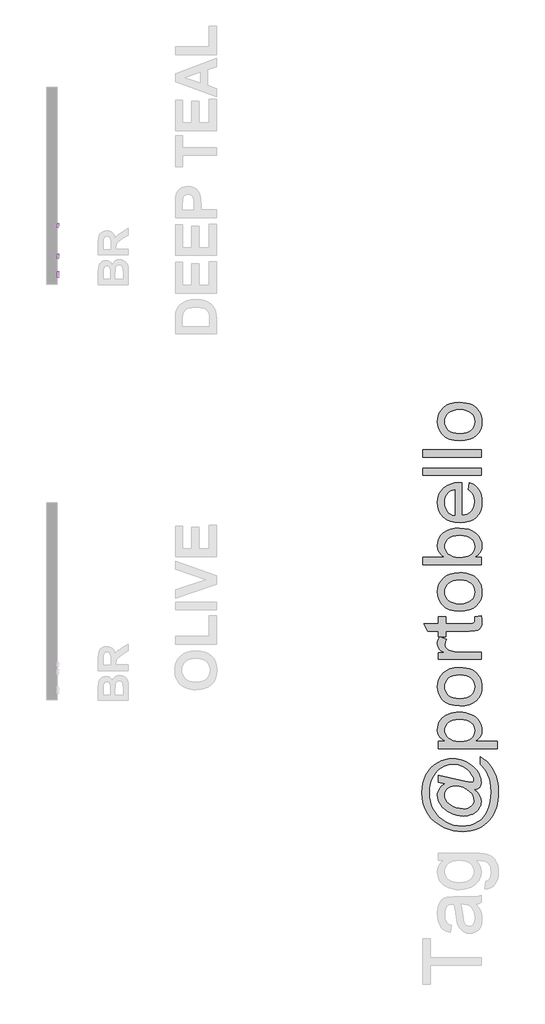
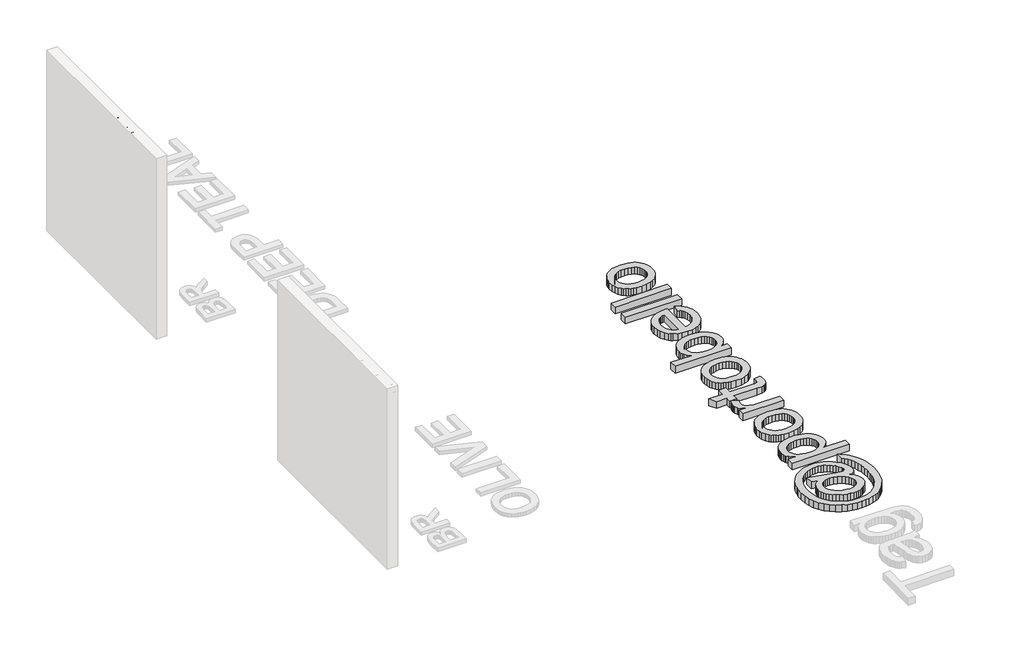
# One storey, part 3 of 10: 4 proxies.
"""IFC4 building model written with IfcOpenShell, lengths in millimetres."""

from ifc_helpers import new_model, si_unit, frame, origin, origin_with_axes, place, context, project, spatial, polyline, outline, extrude, element, save

model = new_model("IFC4")

# Units and contexts
model_context = context("Model", 3, world=origin())
ifc_project = project(units=[si_unit("LENGTHUNIT", "METRE", prefix="MILLI")], contexts=[model_context])

# Site, building, storey
site = spatial("IfcSite", under=ifc_project)
building = spatial("IfcBuilding", under=site)
storey = spatial("IfcBuildingStorey", under=building, Name="PORTOBELLO - SHOWROOM", Elevation=0.0)

# Proxies
placement = place(None, origin())
element("IfcBuildingElementProxy", 1, Name="10mm Arial", ObjectType="10mm Arial", at=placement, inside=storey, context=model_context, shape_type="SweptSolid", body=[
    extrude(outline(polyline([(-1934.9777985, 2518.4745677), (-1934.9777985, 2618.9308778), (-1900.3233145, 2618.9308778), (-1882.3951986, 2617.4838753), (-1867.6308679, 2610.2979137), (-1855.7360167, 2593.1300872), (-1851.7874166, 2569.242283), (-1854.4606925, 2548.9719851), (-1861.327823, 2534.3425444), (-1870.5003475, 2525.2313336), (-1882.5055632, 2520.1913503), (-1898.6555828, 2518.4745677), (-1934.9777985, 2518.4745677)]), holes=[polyline([(-1922.4207597, 2531.0316064), (-1900.2006872, 2531.0316064), (-1884.0384049, 2532.8464909), (-1874.7187277, 2537.9723134), (-1867.0790449, 2550.443513), (-1864.3444554, 2569.4384867), (-1865.684159, 2583.1236969), (-1869.7032698, 2593.2281891), (-1882.7385552, 2604.3627508), (-1900.5440437, 2606.373839), (-1922.4207597, 2606.373839), (-1922.4207597, 2531.0316064)])]), frame((-7116.0080774, 0.0, 0.0), z_axis=(1.0, 0.0, 0.0), x_axis=(0.0, 1.0, 0.0)), (0.0, 0.0, 1.0), 20.0),
    extrude(outline(polyline([(-1784.4404861, 2540.4493855), (-1772.128702, 2538.8797557), (-1776.5647457, 2529.602998), (-1783.6434084, 2522.6684224), (-1793.2052746, 2518.345809), (-1805.0909287, 2516.9049378), (-1819.8246026, 2519.391207), (-1831.1614994, 2526.8500144), (-1838.3903806, 2538.7969822), (-1840.8000077, 2554.7477324), (-1838.3658552, 2571.2349771), (-1831.0633976, 2583.5651553), (-1819.8797849, 2591.253889), (-1805.8021672, 2593.8168003), (-1792.1629423, 2591.2600204), (-1781.2644382, 2583.5896808), (-1774.1183304, 2571.2840281), (-1771.7362945, 2554.8213088), (-1771.8098709, 2551.4367944), (-1828.2429689, 2551.4367944), (-1826.0693995, 2542.0374095), (-1821.0202191, 2535.1273593), (-1813.7330899, 2530.8783223), (-1804.8456741, 2529.4619766), (-1792.53389, 2532.0862015), (-1784.4404861, 2540.4493855)]), holes=[polyline([(-1828.2429689, 2563.9938332), (-1784.2933333, 2563.9938332), (-1789.3210539, 2575.3736496), (-1796.6419056, 2579.7882335), (-1805.8512182, 2581.2597615), (-1821.3145247, 2576.5631347), (-1826.1797641, 2571.0724959), (-1828.2429689, 2563.9938332)])]), frame((-7116.0080774, 0.0, 0.0), z_axis=(1.0, 0.0, 0.0), x_axis=(0.0, 1.0, 0.0)), (0.0, 0.0, 1.0), 20.0),
    extrude(outline(polyline([(-1707.5286236, 2540.4493855), (-1695.2168395, 2538.8797557), (-1699.6528832, 2529.602998), (-1706.7315459, 2522.6684224), (-1716.2934121, 2518.345809), (-1728.1790663, 2516.9049378), (-1742.9127402, 2519.391207), (-1754.249637, 2526.8500144), (-1761.4785182, 2538.7969822), (-1763.8881453, 2554.7477324), (-1761.4539927, 2571.2349771), (-1754.1515351, 2583.5651553), (-1742.9679225, 2591.253889), (-1728.8903048, 2593.8168003), (-1715.2510798, 2591.2600204), (-1704.3525757, 2583.5896808), (-1697.206468, 2571.2840281), (-1694.824432, 2554.8213088), (-1694.8980084, 2551.4367944), (-1751.3311065, 2551.4367944), (-1749.157537, 2542.0374095), (-1744.1083567, 2535.1273593), (-1736.8212275, 2530.8783223), (-1727.9338116, 2529.4619766), (-1715.6220275, 2532.0862015), (-1707.5286236, 2540.4493855)]), holes=[polyline([(-1751.3311065, 2563.9938332), (-1707.3814708, 2563.9938332), (-1712.4091914, 2575.3736496), (-1719.7300431, 2579.7882335), (-1728.9393557, 2581.2597615), (-1744.4026622, 2576.5631347), (-1749.2679016, 2571.0724959), (-1751.3311065, 2563.9938332)])]), frame((-7116.0080774, 0.0, 0.0), z_axis=(1.0, 0.0, 0.0), x_axis=(0.0, 1.0, 0.0)), (0.0, 0.0, 1.0), 20.0),
    extrude(outline(polyline([(-1682.2673933, 2490.2212304), (-1682.2673933, 2592.2471704), (-1669.7103545, 2592.2471704), (-1669.7103545, 2579.9353863), (-1661.0283394, 2590.3464468), (-1649.3051665, 2593.8168003), (-1633.3881388, 2588.9607579), (-1622.9893411, 2575.2755477), (-1619.4821994, 2555.9249548), (-1623.4430622, 2535.5810804), (-1634.945506, 2521.724192), (-1650.8257454, 2516.9049378), (-1661.7518407, 2520.1300366), (-1669.7103545, 2528.2847542), (-1669.7103545, 2490.2212304), (-1682.2673933, 2490.2212304)]), holes=[polyline([(-1669.7103545, 2554.7722579), (-1668.3522568, 2543.5150688), (-1664.2779637, 2535.6423941), (-1658.2661588, 2531.007081), (-1651.0955255, 2529.4619766), (-1643.8083964, 2531.0622633), (-1637.6433072, 2535.8631233), (-1633.4402555, 2544.0239722), (-1632.0392382, 2555.7042256), (-1633.4065329, 2566.900101), (-1637.5084172, 2574.8831403), (-1643.5110251, 2579.6656062), (-1650.5804907, 2581.2597615), (-1657.6775476, 2579.5644386), (-1663.9100817, 2574.4784701), (-1668.2602863, 2566.1612713), (-1669.7103545, 2554.7722579)])]), frame((-7116.0080774, 0.0, 0.0), z_axis=(1.0, 0.0, 0.0), x_axis=(0.0, 1.0, 0.0)), (0.0, 0.0, 1.0), 20.0),
    extrude(outline(polyline([(-1539.4310773, 2518.4745677), (-1539.4310773, 2606.373839), (-1572.393304, 2606.373839), (-1572.393304, 2618.9308778), (-1493.9118117, 2618.9308778), (-1493.9118117, 2606.373839), (-1526.8740385, 2606.373839), (-1526.8740385, 2518.4745677), (-1539.4310773, 2518.4745677)])), frame((-7116.0080774, 0.0, 0.0), z_axis=(1.0, 0.0, 0.0), x_axis=(0.0, 1.0, 0.0)), (0.0, 0.0, 1.0), 20.0),
    extrude(outline(polyline([(-1429.7041408, 2540.4493855), (-1417.3923567, 2538.8797557), (-1421.8284005, 2529.602998), (-1428.9070632, 2522.6684224), (-1438.4689294, 2518.345809), (-1450.3545835, 2516.9049378), (-1465.0882574, 2519.391207), (-1476.4251542, 2526.8500144), (-1483.6540354, 2538.7969822), (-1486.0636625, 2554.7477324), (-1483.62951, 2571.2349771), (-1476.3270524, 2583.5651553), (-1465.1434397, 2591.253889), (-1451.065822, 2593.8168003), (-1437.4265971, 2591.2600204), (-1426.5280929, 2583.5896808), (-1419.3819852, 2571.2840281), (-1416.9999493, 2554.8213088), (-1417.0735257, 2551.4367944), (-1473.5066237, 2551.4367944), (-1471.3330543, 2542.0374095), (-1466.2838739, 2535.1273593), (-1458.9967447, 2530.8783223), (-1450.1093288, 2529.4619766), (-1437.7975447, 2532.0862015), (-1429.7041408, 2540.4493855)]), holes=[polyline([(-1473.5066237, 2563.9938332), (-1429.556988, 2563.9938332), (-1434.5847086, 2575.3736496), (-1441.9055603, 2579.7882335), (-1451.114873, 2581.2597615), (-1466.5781795, 2576.5631347), (-1471.4434189, 2571.0724959), (-1473.5066237, 2563.9938332)])]), frame((-7116.0080774, 0.0, 0.0), z_axis=(1.0, 0.0, 0.0), x_axis=(0.0, 1.0, 0.0)), (0.0, 0.0, 1.0), 20.0),
    extrude(outline(polyline([(-1357.3540151, 2527.8923467), (-1369.5309092, 2519.3820099), (-1382.9831275, 2516.9049378), (-1393.4769614, 2518.3948599), (-1401.2178117, 2522.8646261), (-1405.9910806, 2529.6520489), (-1407.5821702, 2538.0949407), (-1405.1786745, 2548.0277546), (-1398.8633669, 2555.2382417), (-1390.0709872, 2559.3585201), (-1379.2062056, 2561.246981), (-1357.4275915, 2565.563463), (-1357.3540151, 2568.3593662), (-1360.8121059, 2577.6299925), (-1374.6935198, 2581.2597615), (-1387.3977114, 2578.8440031), (-1393.4555016, 2570.2723526), (-1406.0125404, 2571.8419824), (-1400.5801496, 2584.1047156), (-1389.6417916, 2591.2906772), (-1373.0748391, 2593.8168003), (-1357.8567872, 2591.5849828), (-1349.2606112, 2585.9809138), (-1345.410113, 2577.4583142), (-1344.7969764, 2566.4709053), (-1344.7969764, 2550.8481832), (-1344.1593142, 2529.0327809), (-1341.6577167, 2518.4745677), (-1354.2147554, 2518.4745677), (-1357.3540151, 2527.8923467)]), holes=[polyline([(-1357.3540151, 2553.0064243), (-1377.6120503, 2549.1559261), (-1388.4155182, 2547.1203124), (-1393.3083488, 2543.8093744), (-1395.0251314, 2538.9778575), (-1391.2849978, 2532.1843033), (-1380.3098516, 2529.4619766), (-1367.6056601, 2532.4663462), (-1359.4141543, 2539.738147), (-1357.4275915, 2549.4502317), (-1357.3540151, 2553.0064243)])]), frame((-7116.0080774, 0.0, 0.0), z_axis=(1.0, 0.0, 0.0), x_axis=(0.0, 1.0, 0.0)), (0.0, 0.0, 1.0), 20.0),
    extrude(outline(polyline([(-7096.0080774, -1314.9740093), (-7096.0080774, -1327.531048), (-7116.0080774, -1327.531048), (-7116.0080774, -1314.9740093), (-7096.0080774, -1314.9740093)])), frame((0.0, 0.0, 2518.4745677), z_axis=(0.0, 0.0, 1.0), x_axis=(1.0, 0.0, 0.0)), (0.0, 0.0, 1.0), 100.4563101),
])
element("IfcBuildingElementProxy", 2, Name="10mm Arial", ObjectType="10mm Arial", at=placement, inside=storey, context=model_context, shape_type="SweptSolid", body=[
    extrude(outline(polyline([(-1892.5977926, 2383.4745677), (-1905.1548314, 2383.4745677), (-1905.1548314, 2461.7598562), (-1917.0496826, 2453.2863076), (-1930.2689089, 2446.9464746), (-1930.2689089, 2458.8168003), (-1911.8625465, 2470.5644987), (-1900.6911965, 2483.9308778), (-1892.5977926, 2483.9308778), (-1892.5977926, 2383.4745677)])), frame((-7116.0080774, 0.0, 0.0), z_axis=(1.0, 0.0, 0.0), x_axis=(0.0, 1.0, 0.0)), (0.0, 0.0, 1.0), 20.0),
    extrude(outline(polyline([(-1815.6859302, 2383.4745677), (-1828.2429689, 2383.4745677), (-1828.2429689, 2461.7598562), (-1840.1378201, 2453.2863076), (-1853.3570465, 2446.9464746), (-1853.3570465, 2458.8168003), (-1834.950684, 2470.5644987), (-1823.7793341, 2483.9308778), (-1815.6859302, 2483.9308778), (-1815.6859302, 2383.4745677)])), frame((-7116.0080774, 0.0, 0.0), z_axis=(1.0, 0.0, 0.0), x_axis=(0.0, 1.0, 0.0)), (0.0, 0.0, 1.0), 20.0),
    extrude(outline(polyline([(-1779.5844437, 2383.4745677), (-1779.5844437, 2396.0316064), (-1767.027405, 2396.0316064), (-1767.027405, 2383.4745677), (-1769.2837479, 2370.635486), (-1776.445184, 2363.0693797), (-1779.5844437, 2367.7782692), (-1774.973656, 2373.1983973), (-1773.3304498, 2383.4745677), (-1779.5844437, 2383.4745677)])), frame((-7116.0080774, 0.0, 0.0), z_axis=(1.0, 0.0, 0.0), x_axis=(0.0, 1.0, 0.0)), (0.0, 0.0, 1.0), 20.0),
    extrude(outline(polyline([(-1746.622217, 2410.158275), (-1734.0651782, 2411.7279049), (-1727.7376079, 2398.7907214), (-1714.6164834, 2394.4619766), (-1705.6156372, 2395.9672271), (-1698.871134, 2400.4829786), (-1694.6588851, 2407.4880649), (-1693.2548022, 2416.4613199), (-1698.5155147, 2431.3728034), (-1705.1220622, 2435.4746877), (-1714.4202796, 2436.8419824), (-1725.4444768, 2434.6592159), (-1732.4955483, 2428.9938332), (-1745.0525871, 2430.563463), (-1734.0651782, 2482.361248), (-1685.406653, 2482.361248), (-1685.406653, 2469.8042092), (-1723.9116351, 2469.8042092), (-1729.3072377, 2442.1394832), (-1720.3370484, 2447.5841367), (-1710.9376634, 2449.3990212), (-1699.2022278, 2447.1488097), (-1689.4533549, 2440.3981751), (-1682.8866613, 2430.1097419), (-1680.6977634, 2417.2461348), (-1682.6659321, 2404.6890961), (-1688.5704381, 2393.9469418), (-1699.8766781, 2384.9154388), (-1714.6655343, 2381.9049378), (-1726.9987782, 2383.839384), (-1736.8242931, 2389.6427224), (-1743.5595993, 2398.6405029), (-1746.622217, 2410.158275)])), frame((-7116.0080774, 0.0, 0.0), z_axis=(1.0, 0.0, 0.0), x_axis=(0.0, 1.0, 0.0)), (0.0, 0.0, 1.0), 20.0),
    extrude(outline(polyline([(-1674.419244, 2383.4745677), (-1647.5883839, 2420.5815982), (-1672.8496142, 2457.2471704), (-1657.7909779, 2457.2471704), (-1645.6018211, 2439.5643092), (-1639.8873874, 2431.2501761), (-1634.9332432, 2438.0682557), (-1621.0518293, 2457.2471704), (-1605.944142, 2457.2471704), (-1632.4806966, 2420.5570728), (-1606.9251607, 2383.4745677), (-1622.0083225, 2383.4745677), (-1637.4103153, 2405.792742), (-1640.2062185, 2409.8884949), (-1659.3115568, 2383.4745677), (-1674.419244, 2383.4745677)])), frame((-7116.0080774, 0.0, 0.0), z_axis=(1.0, 0.0, 0.0), x_axis=(0.0, 1.0, 0.0)), (0.0, 0.0, 1.0), 20.0),
    extrude(outline(polyline([(-1551.988116, 2383.4745677), (-1564.5451548, 2383.4745677), (-1564.5451548, 2461.7598562), (-1576.440006, 2453.2863076), (-1589.6592323, 2446.9464746), (-1589.6592323, 2458.8168003), (-1571.2528699, 2470.5644987), (-1560.0815199, 2483.9308778), (-1551.988116, 2483.9308778), (-1551.988116, 2383.4745677)])), frame((-7116.0080774, 0.0, 0.0), z_axis=(1.0, 0.0, 0.0), x_axis=(0.0, 1.0, 0.0)), (0.0, 0.0, 1.0), 20.0),
    extrude(outline(polyline([(-1475.0762536, 2383.4745677), (-1487.6332923, 2383.4745677), (-1487.6332923, 2461.7598562), (-1499.5281435, 2453.2863076), (-1512.7473699, 2446.9464746), (-1512.7473699, 2458.8168003), (-1494.3410074, 2470.5644987), (-1483.1696575, 2483.9308778), (-1475.0762536, 2483.9308778), (-1475.0762536, 2383.4745677)])), frame((-7116.0080774, 0.0, 0.0), z_axis=(1.0, 0.0, 0.0), x_axis=(0.0, 1.0, 0.0)), (0.0, 0.0, 1.0), 20.0),
    extrude(outline(polyline([(-1438.9747671, 2383.4745677), (-1438.9747671, 2396.0316064), (-1426.4177284, 2396.0316064), (-1426.4177284, 2383.4745677), (-1428.6740713, 2370.635486), (-1435.8355074, 2363.0693797), (-1438.9747671, 2367.7782692), (-1434.3639794, 2373.1983973), (-1432.7207732, 2383.4745677), (-1438.9747671, 2383.4745677)])), frame((-7116.0080774, 0.0, 0.0), z_axis=(1.0, 0.0, 0.0), x_axis=(0.0, 1.0, 0.0)), (0.0, 0.0, 1.0), 20.0),
    extrude(outline(polyline([(-1406.0125404, 2410.158275), (-1393.4555016, 2411.7279049), (-1387.1279313, 2398.7907214), (-1374.0068068, 2394.4619766), (-1365.0059606, 2395.9672271), (-1358.2614574, 2400.4829786), (-1354.0492085, 2407.4880649), (-1352.6451256, 2416.4613199), (-1357.9058381, 2431.3728034), (-1364.5123856, 2435.4746877), (-1373.810603, 2436.8419824), (-1384.8348002, 2434.6592159), (-1391.8858717, 2428.9938332), (-1404.4429105, 2430.563463), (-1393.4555016, 2482.361248), (-1344.7969764, 2482.361248), (-1344.7969764, 2469.8042092), (-1383.3019585, 2469.8042092), (-1388.6975611, 2442.1394832), (-1379.7273718, 2447.5841367), (-1370.3279868, 2449.3990212), (-1358.5925512, 2447.1488097), (-1348.8436783, 2440.3981751), (-1342.2769847, 2430.1097419), (-1340.0880868, 2417.2461348), (-1342.0562555, 2404.6890961), (-1347.9607615, 2393.9469418), (-1359.2670015, 2384.9154388), (-1374.0558577, 2381.9049378), (-1386.3891016, 2383.839384), (-1396.2146165, 2389.6427224), (-1402.9499227, 2398.6405029), (-1406.0125404, 2410.158275)])), frame((-7116.0080774, 0.0, 0.0), z_axis=(1.0, 0.0, 0.0), x_axis=(0.0, 1.0, 0.0)), (0.0, 0.0, 1.0), 20.0),
])
element("IfcBuildingElementProxy", 3, Name="10mm Arial Narrow", ObjectType="10mm Arial Narrow", at=placement, inside=storey, context=model_context, shape_type="SweptSolid", body=[
    extrude(outline(polyline([(-1253.0722036, 2518.4745677), (-1253.0722036, 2615.7916181), (-1222.8323036, 2615.7916181), (-1207.0869542, 2613.9767336), (-1196.0014434, 2604.8164719), (-1191.8566396, 2588.3721467), (-1193.5826193, 2576.7041561), (-1198.7605584, 2567.402873), (-1208.1752718, 2561.314426), (-1222.6115744, 2559.2849437), (-1243.6544246, 2559.2849437), (-1243.6544246, 2518.4745677), (-1253.0722036, 2518.4745677)]), holes=[polyline([(-1243.6544246, 2570.2723526), (-1221.4588775, 2570.2723526), (-1206.130461, 2574.6501483), (-1201.2744187, 2587.857112), (-1203.6656517, 2597.6795612), (-1209.441399, 2603.2836303), (-1221.6796067, 2604.8042092), (-1243.6544246, 2604.8042092), (-1243.6544246, 2570.2723526)])]), frame((-7116.0080774, 0.0, 0.0), z_axis=(1.0, 0.0, 0.0), x_axis=(0.0, 1.0, 0.0)), (0.0, 0.0, 1.0), 20.0),
    extrude(outline(polyline([(-1184.0084904, 2553.7912392), (-1182.1200295, 2569.8216971), (-1176.4546468, 2581.3701261), (-1167.895259, 2588.350687), (-1157.324783, 2590.6775406), (-1146.8769344, 2588.350687), (-1138.2930211, 2581.3701261), (-1132.554062, 2570.0056381), (-1130.6410756, 2554.5270032), (-1132.5203395, 2537.9447223), (-1138.1581311, 2526.2123523), (-1146.7083218, 2519.2317914), (-1157.324783, 2516.9049378), (-1167.8186169, 2519.2379228), (-1176.3933331, 2526.2368778), (-1182.1047011, 2537.7914381), (-1184.0084904, 2553.7912392)]), holes=[polyline([(-1174.5907113, 2553.8157647), (-1173.3307155, 2541.6879216), (-1169.550728, 2533.1162711), (-1163.906805, 2528.0211054), (-1157.0550029, 2526.3227169), (-1150.5618857, 2528.0364339), (-1145.0620498, 2533.1775847), (-1141.3096535, 2541.7645636), (-1140.0588547, 2553.8157647), (-1141.3188505, 2565.9068196), (-1145.098838, 2574.4662073), (-1150.742761, 2579.561373), (-1157.5945631, 2581.2597615), (-1164.1336656, 2579.5521759), (-1169.6243044, 2574.4294191), (-1173.3491096, 2565.8608343), (-1174.5907113, 2553.8157647)])]), frame((-7116.0080774, 0.0, 0.0), z_axis=(1.0, 0.0, 0.0), x_axis=(0.0, 1.0, 0.0)), (0.0, 0.0, 1.0), 20.0),
    extrude(outline(polyline([(-1061.5773624, 2526.3227169), (-1060.0077326, 2516.9049378), (-1067.1201178, 2516.9049378), (-1075.1154198, 2518.9528143), (-1079.2847491, 2524.5568833), (-1080.4129206, 2538.7080774), (-1080.4129206, 2579.6901317), (-1088.2610698, 2579.6901317), (-1088.2610698, 2582.8293914), (-1089.8306996, 2578.1205018), (-1097.1392886, 2579.6901317), (-1103.0131378, 2577.4460515), (-1106.7532714, 2571.1797948), (-1108.6662578, 2556.2928368), (-1108.6662578, 2518.4745677), (-1118.0840369, 2518.4745677), (-1118.0840369, 2589.1079107), (-1108.6662578, 2589.1079107), (-1108.6662578, 2579.7391826), (-1102.6329931, 2588.5192995), (-1096.4525756, 2590.6775406), (-1088.2610698, 2589.1079107), (-1080.4129206, 2589.1079107), (-1080.4129206, 2604.8042092), (-1070.9951415, 2612.6523584), (-1070.9951415, 2589.1079107), (-1061.5773624, 2589.1079107), (-1061.5773624, 2579.6901317), (-1070.9951415, 2579.6901317), (-1070.9951415, 2536.5498364), (-1070.1612756, 2528.8243145), (-1065.6976408, 2526.3227169), (-1061.5773624, 2526.3227169)])), frame((-7116.0080774, 0.0, 0.0), z_axis=(1.0, 0.0, 0.0), x_axis=(0.0, 1.0, 0.0)), (0.0, 0.0, 1.0), 20.0),
    extrude(outline(polyline([(-1055.298843, 2553.7912392), (-1053.4103821, 2569.8216971), (-1047.7449994, 2581.3701261), (-1039.1856116, 2588.350687), (-1028.6151356, 2590.6775406), (-1018.167287, 2588.350687), (-1009.5833738, 2581.3701261), (-1003.8444146, 2570.0056381), (-1001.9314283, 2554.5270032), (-1003.8106921, 2537.9447223), (-1009.4484837, 2526.2123523), (-1017.9986744, 2519.2317914), (-1028.6151356, 2516.9049378), (-1039.1089696, 2519.2379228), (-1047.6836857, 2526.2368778), (-1053.3950537, 2537.7914381), (-1055.298843, 2553.7912392)]), holes=[polyline([(-1045.8810639, 2553.8157647), (-1044.6210681, 2541.6879216), (-1040.8410806, 2533.1162711), (-1035.1971577, 2528.0211054), (-1028.3453555, 2526.3227169), (-1021.8522383, 2528.0364339), (-1016.3524025, 2533.1775847), (-1012.6000061, 2541.7645636), (-1011.3492073, 2553.8157647), (-1012.6092032, 2565.9068196), (-1016.3891907, 2574.4662073), (-1022.0331136, 2579.561373), (-1028.8849158, 2581.2597615), (-1035.4240182, 2579.5521759), (-1040.914657, 2574.4294191), (-1044.6394622, 2565.8608343), (-1045.8810639, 2553.8157647)])]), frame((-7116.0080774, 0.0, 0.0), z_axis=(1.0, 0.0, 0.0), x_axis=(0.0, 1.0, 0.0)), (0.0, 0.0, 1.0), 20.0),
    extrude(outline(polyline([(-979.9566104, 2518.4745677), (-989.3743895, 2518.4745677), (-989.3743895, 2615.7916181), (-979.9566104, 2615.7916181), (-979.9566104, 2581.5785926), (-972.807437, 2588.4211977), (-963.9169554, 2590.6775406), (-951.4702813, 2586.6185759), (-942.5062233, 2574.3190545), (-939.1462344, 2554.3307995), (-941.0132355, 2538.4321659), (-946.6142389, 2526.641548), (-954.7045771, 2519.3390904), (-964.0395828, 2516.9049378), (-973.0649544, 2519.4310609), (-979.9566104, 2526.9358536), (-979.9566104, 2518.4745677)]), holes=[polyline([(-979.9566104, 2554.3307995), (-977.9455222, 2537.6657451), (-972.255614, 2529.2289847), (-964.0886337, 2526.3227169), (-958.3466089, 2528.0517623), (-953.2851658, 2533.2388984), (-948.5640135, 2553.938392), (-953.1134875, 2574.6501483), (-958.181062, 2579.6073582), (-964.2848374, 2581.2597615), (-970.0605847, 2579.5307161), (-975.1741445, 2574.34358), (-979.9566104, 2554.3307995)])]), frame((-7116.0080774, 0.0, 0.0), z_axis=(1.0, 0.0, 0.0), x_axis=(0.0, 1.0, 0.0)), (0.0, 0.0, 1.0), 20.0),
    extrude(outline(polyline([(-888.9180793, 2540.4493855), (-879.5003003, 2538.8797557), (-888.6973501, 2522.4476932), (-905.1784635, 2516.9049378), (-916.3804703, 2519.2379228), (-925.2157695, 2526.2368778), (-930.9547287, 2537.6442853), (-932.867715, 2553.202628), (-930.9455316, 2569.3066623), (-925.1789813, 2581.0758205), (-916.4693751, 2588.2771106), (-905.7180238, 2590.6775406), (-895.3958681, 2588.359884), (-886.9437793, 2581.4069143), (-881.3059877, 2570.0638861), (-879.4267239, 2554.5760541), (-879.5003003, 2551.4367944), (-923.449936, 2551.4367944), (-917.6496632, 2532.6502872), (-911.9199011, 2527.9046095), (-905.0558362, 2526.3227169), (-895.2211242, 2529.854384), (-888.9180793, 2540.4493855)]), holes=[polyline([(-922.8122738, 2560.8545735), (-888.9180793, 2560.8545735), (-893.0383577, 2574.6378856), (-898.6669522, 2579.6042925), (-905.6444474, 2581.2597615), (-917.4411967, 2575.7415316), (-922.8122738, 2560.8545735)])]), frame((-7116.0080774, 0.0, 0.0), z_axis=(1.0, 0.0, 0.0), x_axis=(0.0, 1.0, 0.0)), (0.0, 0.0, 1.0), 20.0),
    extrude(outline(polyline([(-7096.0080774, -857.5254824), (-7096.0080774, -866.9432615), (-7116.0080774, -866.9432615), (-7116.0080774, -857.5254824), (-7096.0080774, -857.5254824)])), frame((0.0, 0.0, 2518.4745677), z_axis=(0.0, 0.0, 1.0), x_axis=(1.0, 0.0, 0.0)), (0.0, 0.0, 1.0), 97.3170505),
    extrude(outline(polyline([(-7096.0080774, -832.4114049), (-7096.0080774, -841.829184), (-7116.0080774, -841.829184), (-7116.0080774, -832.4114049), (-7096.0080774, -832.4114049)])), frame((0.0, 0.0, 2518.4745677), z_axis=(0.0, 0.0, 1.0), x_axis=(1.0, 0.0, 0.0)), (0.0, 0.0, 1.0), 97.3170505),
    extrude(outline(polyline([(-821.423996, 2553.7912392), (-819.535535, 2569.8216971), (-813.8701523, 2581.3701261), (-805.3107646, 2588.350687), (-794.7402886, 2590.6775406), (-784.2924399, 2588.350687), (-775.7085267, 2581.3701261), (-769.9695676, 2570.0056381), (-768.0565812, 2554.5270032), (-769.935845, 2537.9447223), (-775.5736366, 2526.2123523), (-784.1238273, 2519.2317914), (-794.7402886, 2516.9049378), (-805.2341225, 2519.2379228), (-813.8088387, 2526.2368778), (-819.5202066, 2537.7914381), (-821.423996, 2553.7912392)]), holes=[polyline([(-812.0062169, 2553.8157647), (-810.746221, 2541.6879216), (-806.9662335, 2533.1162711), (-801.3223106, 2528.0211054), (-794.4705084, 2526.3227169), (-787.9773912, 2528.0364339), (-782.4775554, 2533.1775847), (-778.725159, 2541.7645636), (-777.4743603, 2553.8157647), (-778.7343561, 2565.9068196), (-782.5143436, 2574.4662073), (-788.1582665, 2579.561373), (-795.0100687, 2581.2597615), (-801.5491712, 2579.5521759), (-807.0398099, 2574.4294191), (-810.7646151, 2565.8608343), (-812.0062169, 2553.8157647)])]), frame((-7116.0080774, 0.0, 0.0), z_axis=(1.0, 0.0, 0.0), x_axis=(0.0, 1.0, 0.0)), (0.0, 0.0, 1.0), 20.0),
])
element("IfcBuildingElementProxy", 4, Name="80mm Arial", ObjectType="80mm Arial", at=placement, inside=storey, context=model_context, shape_type="SweptSolid", body=[
    extrude(outline(polyline([(-1393.5264717, -8955.7052888), (-1356.2258943, -8992.9570753), (-1327.0733829, -9034.4536627), (-1308.2645241, -9078.1458368), (-1301.9949044, -9121.9843833), (-1303.7879669, -9145.9162776), (-1309.1671541, -9169.5066362), (-1318.1324662, -9192.7554591), (-1330.6839031, -9215.6627463), (-1346.9556396, -9237.3319667), (-1367.0818505, -9256.8665889), (-1391.0625356, -9274.2666129), (-1418.897695, -9289.5320389), (-1449.3919539, -9301.9553999), (-1481.3499371, -9310.8292293), (-1514.7716448, -9316.1535268), (-1549.6570769, -9317.9282927), (-1593.4956233, -9315.1777106), (-1637.3829606, -9306.9259641), (-1681.3190887, -9293.1730534), (-1725.3040076, -9273.9189784), (-1766.5688387, -9250.5725738), (-1802.3447031, -9224.5426745), (-1832.631601, -9195.8292804), (-1857.4295322, -9164.4323915), (-1876.7262992, -9131.9316105), (-1890.5097042, -9099.9065399), (-1898.7797472, -9068.3571797), (-1901.5364282, -9037.28353), (-1899.9690233, -9014.120091), (-1895.2668086, -8991.4689555), (-1876.4579497, -8947.7035953), (-1862.2781194, -8927.0772786), (-1844.8171068, -8907.9390818), (-1800.0515349, -8874.1270476), (-1889.0459798, -8855.7817015), (-1889.0459798, -8755.8581142), (-1522.5293842, -8838.6073349), (-1438.0236942, -8855.7817015), (-1424.2402892, -8852.9762297), (-1412.5548892, -8844.5598142), (-1404.5775911, -8832.1913429), (-1401.9184917, -8817.5297032), (-1403.8945197, -8801.8556542), (-1409.8226036, -8783.9128323), (-1433.5349393, -8741.22087), (-1455.8994287, -8711.6231423), (-1481.8134498, -8685.2822016), (-1511.2770027, -8662.1980477), (-1544.2900873, -8642.3706806), (-1579.3523861, -8626.4465786), (-1614.9635815, -8615.0722201), (-1651.1236736, -8608.247605), (-1687.8326624, -8605.9727332), (-1730.2562753, -8608.9001821), (-1771.2649545, -8617.6825286), (-1810.8587002, -8632.3197729), (-1849.0375122, -8652.8119148), (-1884.63651, -8679.1162624), (-1916.4908127, -8711.1901239), (-1944.6004205, -8749.0334991), (-1968.9653333, -8792.646388), (-1988.6463279, -8840.3577054), (-2002.7041813, -8890.4963657), (-2011.1388932, -8943.0623691), (-2013.9504639, -8998.0557154), (-2010.3826356, -9060.7885047), (-1999.6791508, -9120.7646129), (-1981.8400094, -9177.9840401), (-1956.8652114, -9232.4467864), (-1925.2304673, -9282.5427548), (-1887.4114875, -9326.6618484), (-1843.408272, -9364.8040674), (-1793.2208209, -9396.9694116), (-1738.989831, -9422.499205), (-1682.8559994, -9440.7347718), (-1624.819326, -9451.6761119), (-1564.8798109, -9455.3232252), (-1503.1899253, -9451.712705), (-1445.9522015, -9440.8811443), (-1393.1666395, -9422.828543), (-1344.8332392, -9397.5549013), (-1301.7387527, -9365.4444468), (-1264.6699316, -9326.8814071), (-1233.6267762, -9281.8657822), (-1208.6092862, -9230.3975722), (-1189.3552112, -9174.2332463), (-1175.6023005, -9115.1292739), (-1167.3505541, -9053.0856549), (-1164.5999719, -8988.1023893), (-1167.3322575, -8919.8562381), (-1175.5291143, -8857.3917983), (-1189.1905422, -8800.7090701), (-1208.3165414, -8749.8080532), (-1231.3458056, -8704.8107249), (-1256.717029, -8665.8390622), (-1284.4302114, -8632.8930649), (-1314.4853529, -8605.9727332), (-1314.4853529, -8506.049146), (-1285.1742713, -8522.2781905), (-1255.5948402, -8543.447305), (-1225.7470597, -8569.5564894), (-1195.6309297, -8600.6057437), (-1166.9602275, -8635.7168333), (-1141.4487306, -8674.0115235), (-1119.0964389, -8715.4898144), (-1099.9033524, -8760.1517058), (-1084.491554, -8808.7717521), (-1073.4831266, -8862.1245073), (-1066.8780701, -8920.2099715), (-1064.6763846, -8983.0281447), (-1066.6219183, -9041.8759653), (-1072.4585195, -9098.3940246), (-1082.186188, -9152.5823225), (-1095.804924, -9204.4408591), (-1113.3208263, -9253.2621675), (-1134.7399937, -9298.3387808), (-1160.0624262, -9339.6706992), (-1189.2881239, -9377.2579227), (-1221.6547302, -9410.7650143), (-1256.3998887, -9439.8565372), (-1293.5235993, -9464.5324914), (-1333.0258622, -9484.792877), (-1385.573569, -9504.6873314), (-1440.17049, -9518.897656), (-1496.8166252, -9527.4238508), (-1555.5119745, -9530.2659157), (-1621.2697943, -9526.8749541), (-1685.4419125, -9516.7020694), (-1748.0283293, -9499.7472615), (-1809.0290447, -9476.0105304), (-1878.5742513, -9439.5515946), (-1939.4712862, -9396.1399677), (-1991.7201492, -9345.7756499), (-2035.3208405, -9288.458641), (-2069.6878702, -9224.4328952), (-2094.2357485, -9153.9423665), (-2108.9644755, -9076.9870549), (-2113.8740512, -8993.5669605), (-2110.4342988, -8928.1384788), (-2100.1150416, -8866.1253541), (-2082.9162796, -8807.5275863), (-2058.8380129, -8752.3451756), (-2027.9412298, -8701.6881128), (-1990.2869191, -8656.6663891), (-1945.8750805, -8617.2800044), (-1894.7057142, -8583.5289588), (-1846.8297279, -8560.560683), (-1796.8801319, -8544.1547718), (-1744.8569264, -8534.311225), (-1690.7601113, -8531.0300428), (-1652.0293531, -8532.7316224), (-1614.3902895, -8537.8363613), (-1577.8429203, -8546.3442596), (-1542.3872456, -8558.2553171), (-1508.0232653, -8573.5695338), (-1474.7509795, -8592.2869099), (-1442.5703882, -8614.4074452), (-1411.4814913, -8639.9311399), (-1363.5811096, -8689.7465611), (-1329.3665512, -8741.8063597), (-1317.3914557, -8768.6779006), (-1308.8378161, -8796.1105358), (-1303.7056324, -8824.1042654), (-1301.9949044, -8852.6590894), (-1304.8735625, -8885.9832154), (-1313.5095366, -8912.1838826), (-1327.4637094, -8931.8465807), (-1346.2969637, -8945.5567994), (-1365.0326363, -8951.6068604), (-1393.5264717, -8955.7052888)]), holes=[polyline([(-1548.0957708, -9218.0047054), (-1515.3815299, -9215.8152176), (-1486.5217634, -9209.2467543), (-1461.5164712, -9198.2993154), (-1440.3656533, -9182.9729009), (-1423.5450201, -9164.8166192), (-1411.5302821, -9145.3795786), (-1404.3214393, -9124.6617792), (-1401.9184917, -9102.6632209), (-1406.1632926, -9071.6078677), (-1418.897695, -9038.9424176), (-1439.9753267, -9006.2281768), (-1469.2498152, -8975.0264512), (-1507.111487, -8947.3376642), (-1553.9506685, -8925.1622391), (-1605.3761866, -8910.5981811), (-1656.9968679, -8905.7434951), (-1689.4244627, -8908.0183668), (-1718.0097809, -8914.842982), (-1742.7528225, -8926.2173405), (-1763.6535875, -8942.1414425), (-1780.2607609, -8961.334529), (-1792.1230276, -8982.5158411), (-1799.2403876, -9005.685379), (-1801.6128409, -9030.8431425), (-1797.4900171, -9064.3624318), (-1785.1215457, -9095.8325069), (-1763.6535875, -9125.8144622), (-1732.2323032, -9154.869392), (-1691.9066954, -9180.6309418), (-1643.7257665, -9200.7327572), (-1593.7639728, -9213.6867184), (-1548.0957708, -9218.0047054)])]), origin_with_axes(), (0.0, 0.0, 1.0), 100.0),
    extrude(outline(polyline([(-1077.166833, -8393.6351103), (-1889.0459798, -8393.6351103), (-1889.0459798, -8293.711523), (-1791.0740251, -8293.711523), (-1839.4013264, -8261.1192591), (-1858.387052, -8243.3594028), (-1873.9208274, -8224.6237302), (-1886.0026528, -8204.3755423), (-1894.632528, -8182.0781403), (-1899.8104531, -8157.731524), (-1901.5364282, -8131.3356936), (-1899.1212829, -8096.4868546), (-1891.875847, -8063.7604161), (-1879.8001205, -8033.1563779), (-1862.8941034, -8004.6747402), (-1841.5969131, -7978.9375857), (-1816.3476668, -7956.5669975), (-1787.1463645, -7937.5629754), (-1753.9930063, -7921.9255195), (-1718.0219786, -7909.7156182), (-1680.3676678, -7900.9942602), (-1641.030074, -7895.7614454), (-1600.009197, -7894.0171738), (-1556.152354, -7895.9871029), (-1514.5520861, -7901.8968903), (-1475.2083934, -7911.7465359), (-1438.1212758, -7925.5360397), (-1404.2604508, -7943.0763374), (-1374.5956358, -7964.1783645), (-1349.1268309, -7988.842121), (-1327.8540359, -8017.067607), (-1311.0760947, -8047.470383), (-1299.091851, -8078.6660098), (-1291.9013048, -8110.6544873), (-1289.504456, -8143.4358155), (-1291.108454, -8167.0200753), (-1295.9204481, -8189.372367), (-1303.9404382, -8210.4926906), (-1315.1684243, -8230.3810462), (-1344.2233541, -8265.486037), (-1380.060207, -8293.711523), (-1077.166833, -8293.711523), (-1077.166833, -8393.6351103)]), holes=[polyline([(-1590.836524, -8293.711523), (-1542.6799904, -8291.0097316), (-1501.2565893, -8282.9043576), (-1466.5663204, -8269.395401), (-1438.6091839, -8250.4828617), (-1417.0924349, -8227.715848), (-1401.7233285, -8202.6434684), (-1392.5018646, -8175.2657229), (-1389.4280433, -8145.5826113), (-1392.6116439, -8115.4725802), (-1402.1624458, -8087.5947288), (-1418.0804489, -8061.9490571), (-1440.3656533, -8038.5355652), (-1469.3351991, -8019.0253384), (-1505.3062268, -8005.0894621), (-1548.2787364, -7996.7279363), (-1598.2527277, -7993.9407611), (-1645.9945393, -7996.660849), (-1687.3447543, -8004.8211126), (-1722.3033726, -8018.4215521), (-1750.8703942, -8037.4621673), (-1773.0702147, -8060.2840706), (-1788.9272292, -8085.2283743), (-1798.441438, -8112.2950784), (-1801.6128409, -8141.4841829), (-1798.2401759, -8170.5818047), (-1788.1221808, -8197.9595503), (-1771.2588557, -8223.6174196), (-1747.6502005, -8247.5554128), (-1717.6133556, -8267.748711), (-1681.4654612, -8282.1724954), (-1639.2065173, -8290.8267661), (-1590.836524, -8293.711523)])]), origin_with_axes(), (0.0, 0.0, 1.0), 100.0),
    extrude(outline(polyline([(-1595.5204421, -7806.5840349), (-1671.5487282, -7801.1804522), (-1705.6199636, -7794.4259739), (-1737.0625938, -7784.9697043), (-1765.876619, -7772.8116433), (-1792.062039, -7757.9517909), (-1815.618854, -7740.3901473), (-1836.5470638, -7720.1267123), (-1864.9799107, -7682.0454819), (-1885.2890871, -7640.0121955), (-1897.4745929, -7594.0268532), (-1901.5364282, -7544.089455), (-1896.5902594, -7488.9619339), (-1881.7517531, -7439.1160185), (-1857.0209092, -7394.5517086), (-1822.3977277, -7355.2690044), (-1779.0531882, -7323.2073407), (-1728.1582703, -7300.3061523), (-1669.7129738, -7286.5654393), (-1603.7172989, -7281.9852016), (-1550.2303689, -7284.0100204), (-1502.7691045, -7290.0844768), (-1461.3335056, -7300.2085707), (-1425.9235723, -7314.3823022), (-1395.3378307, -7332.4288046), (-1368.374807, -7354.1712111), (-1345.0345013, -7379.6095218), (-1325.3169136, -7408.7437367), (-1309.6489634, -7440.4394693), (-1298.4575704, -7473.5623332), (-1291.7427346, -7508.1123285), (-1289.504456, -7544.089455), (-1294.4323283, -7600.0220245), (-1309.2159449, -7650.3314527), (-1333.8553061, -7695.0177396), (-1368.3504116, -7734.0808851), (-1412.1157719, -7765.8010132), (-1464.565897, -7788.4582475), (-1525.7007871, -7802.052588), (-1595.5204421, -7806.5840349)]), holes=[polyline([(-1595.7156054, -7706.6604476), (-1547.2480304, -7703.7695919), (-1505.2818314, -7695.0970247), (-1469.8170084, -7680.642746), (-1440.8535614, -7660.4067558), (-1418.3548972, -7635.7917901), (-1402.2844228, -7608.2005847), (-1392.6421382, -7577.6331397), (-1389.4280433, -7544.089455), (-1392.6604348, -7510.7165382), (-1402.3576091, -7480.2710702), (-1418.5195662, -7452.753051), (-1441.1463063, -7428.1624807), (-1470.3963993, -7407.9264905), (-1506.4284156, -7393.4722119), (-1549.2423549, -7384.7996446), (-1598.8382175, -7381.9087889), (-1645.7688818, -7384.8179412), (-1686.6372875, -7393.5453981), (-1721.4434345, -7408.0911595), (-1750.1873228, -7428.4552256), (-1772.685987, -7453.1372787), (-1788.7564614, -7480.6370013), (-1798.398746, -7510.9543934), (-1801.6128409, -7544.089455), (-1798.4109437, -7577.6331397), (-1788.8052522, -7608.2005847), (-1772.7957663, -7635.7917901), (-1750.3824861, -7660.4067558), (-1721.504423, -7680.642746), (-1686.1005885, -7695.0970247), (-1644.1709826, -7703.7695919), (-1595.7156054, -7706.6604476)])]), origin_with_axes(), (0.0, 0.0, 1.0), 100.0),
    extrude(outline(polyline([(-1301.9949044, -7169.5711659), (-1889.0459798, -7169.5711659), (-1889.0459798, -7082.138027), (-1802.1983307, -7082.138027), (-1852.5504508, -7049.8385081), (-1869.9687715, -7034.6401695), (-1882.2152658, -7020.0761115), (-1896.7061376, -6990.2161333), (-1901.5364282, -6957.6238694), (-1899.609191, -6932.8381359), (-1893.8274796, -6907.857239), (-1884.1912938, -6882.681179), (-1870.7006337, -6857.3099556), (-1781.120699, -6890.6828725), (-1796.4898054, -6925.8122586), (-1801.6128409, -6960.9416448), (-1796.6849687, -6990.7772276), (-1781.901352, -7017.4414075), (-1758.3841796, -7038.982552), (-1727.2556402, -7053.4490283), (-1671.4389489, -7065.5979411), (-1610.5480129, -7069.6475786), (-1301.9949044, -7069.6475786), (-1301.9949044, -7169.5711659)])), origin_with_axes(), (0.0, 0.0, 1.0), 100.0),
    extrude(outline(polyline([(-1385.3296149, -6582.5200906), (-1299.0674556, -6570.0296422), (-1291.8952059, -6609.5989924), (-1289.504456, -6644.7771694), (-1293.6516752, -6692.7385396), (-1306.0933328, -6728.5022064), (-1325.2681228, -6753.7758481), (-1349.614739, -6770.2671433), (-1391.4284667, -6779.3422347), (-1463.004591, -6782.3672652), (-1789.1223925, -6782.3672652), (-1789.1223925, -6857.3099556), (-1889.0459798, -6857.3099556), (-1889.0459798, -6782.3672652), (-2031.7103202, -6782.3672652), (-2090.4544604, -6682.4436779), (-1889.0459798, -6682.4436779), (-1889.0459798, -6582.5200906), (-1789.1223925, -6582.5200906), (-1789.1223925, -6682.4436779), (-1465.9320398, -6682.4436779), (-1433.0470311, -6681.1263259), (-1414.4089401, -6677.1742699), (-1404.089683, -6670.2703697), (-1396.1611757, -6660.097485), (-1391.1113264, -6645.6797994), (-1389.4280433, -6626.0414968), (-1385.3296149, -6582.5200906)])), origin_with_axes(), (0.0, 0.0, 1.0), 100.0),
    extrude(outline(polyline([(-1595.5204421, -6507.5774001), (-1671.5487282, -6502.1738174), (-1705.6199636, -6495.4193391), (-1737.0625938, -6485.9630695), (-1765.876619, -6473.8050085), (-1792.062039, -6458.9451561), (-1815.618854, -6441.3835125), (-1836.5470638, -6421.1200775), (-1864.9799107, -6383.0388471), (-1885.2890871, -6341.0055607), (-1897.4745929, -6295.0202184), (-1901.5364282, -6245.0828202), (-1896.5902594, -6189.9552991), (-1881.7517531, -6140.1093836), (-1857.0209092, -6095.5450738), (-1822.3977277, -6056.2623696), (-1779.0531882, -6024.2007059), (-1728.1582703, -6001.2995175), (-1669.7129738, -5987.5588045), (-1603.7172989, -5982.9785668), (-1550.2303689, -5985.0033856), (-1502.7691045, -5991.077842), (-1461.3335056, -6001.2019359), (-1425.9235723, -6015.3756674), (-1395.3378307, -6033.4221697), (-1368.374807, -6055.1645763), (-1345.0345013, -6080.602887), (-1325.3169136, -6109.7371019), (-1309.6489634, -6141.4328345), (-1298.4575704, -6174.5556984), (-1291.7427346, -6209.1056936), (-1289.504456, -6245.0828202), (-1294.4323283, -6301.0153897), (-1309.2159449, -6351.3248179), (-1333.8553061, -6396.0111048), (-1368.3504116, -6435.0742503), (-1412.1157719, -6466.7943784), (-1464.565897, -6489.4516127), (-1525.7007871, -6503.0459532), (-1595.5204421, -6507.5774001)]), holes=[polyline([(-1595.7156054, -6407.6538128), (-1547.2480304, -6404.7629571), (-1505.2818314, -6396.0903899), (-1469.8170084, -6381.6361112), (-1440.8535614, -6361.400121), (-1418.3548972, -6336.7851553), (-1402.2844228, -6309.1939499), (-1392.6421382, -6278.6265049), (-1389.4280433, -6245.0828202), (-1392.6604348, -6211.7099034), (-1402.3576091, -6181.2644353), (-1418.5195662, -6153.7464162), (-1441.1463063, -6129.1558459), (-1470.3963993, -6108.9198557), (-1506.4284156, -6094.465577), (-1549.2423549, -6085.7930098), (-1598.8382175, -6082.9021541), (-1645.7688818, -6085.8113064), (-1686.6372875, -6094.5387633), (-1721.4434345, -6109.0845247), (-1750.1873228, -6129.4485908), (-1772.685987, -6154.1306439), (-1788.7564614, -6181.6303665), (-1798.398746, -6211.9477586), (-1801.6128409, -6245.0828202), (-1798.4109437, -6278.6265049), (-1788.8052522, -6309.1939499), (-1772.7957663, -6336.7851553), (-1750.3824861, -6361.400121), (-1721.504423, -6381.6361112), (-1686.1005885, -6396.0903899), (-1644.1709826, -6404.7629571), (-1595.7156054, -6407.6538128)])]), origin_with_axes(), (0.0, 0.0, 1.0), 100.0),
    extrude(outline(polyline([(-1301.9949044, -5770.6409438), (-1301.9949044, -5870.5645311), (-2101.3836028, -5870.5645311), (-2101.3836028, -5770.6409438), (-1804.9306163, -5770.6409438), (-1847.195659, -5737.7803305), (-1877.3849752, -5700.6749164), (-1887.9512359, -5680.530409), (-1895.498565, -5659.3247014), (-1901.5364282, -5613.7296856), (-1896.0962524, -5562.2553768), (-1879.7757251, -5513.6109351), (-1853.5994533, -5470.5774371), (-1818.5920442, -5435.935959), (-1775.0950334, -5408.783871), (-1723.4499567, -5388.2185428), (-1665.8036098, -5375.2645817), (-1604.3027887, -5370.9465946), (-1533.3365495, -5375.417053), (-1470.9087029, -5388.828428), (-1417.0192487, -5411.1807197), (-1371.668187, -5442.4739281), (-1335.7215547, -5480.0367561), (-1310.0453888, -5521.1979067), (-1294.6396892, -5565.9573798), (-1289.504456, -5614.3151754), (-1291.1602943, -5638.5306663), (-1296.127809, -5661.4105087), (-1304.4070003, -5682.9547026), (-1315.9978681, -5703.1632479), (-1330.9004124, -5722.0361447), (-1349.1146332, -5739.5733929), (-1395.4781043, -5770.6409438), (-1301.9949044, -5770.6409438)]), holes=[polyline([(-1599.6188705, -5770.6409438), (-1554.5849491, -5768.9332653), (-1516.28416, -5763.8102298), (-1484.7165033, -5755.2718374), (-1459.8819789, -5743.3180879), (-1429.0583821, -5719.1056464), (-1407.0415272, -5690.9655444), (-1393.8314143, -5658.8977818), (-1389.4280433, -5622.9023587), (-1392.6726325, -5593.0179851), (-1402.4063999, -5565.2316164), (-1418.6293456, -5539.5432528), (-1441.3414695, -5515.9528942), (-1470.4817833, -5496.2292076), (-1505.9892982, -5482.14086), (-1547.8640144, -5473.6878515), (-1596.1059319, -5470.8701819), (-1645.2626771, -5473.5719733), (-1687.5399175, -5481.6773473), (-1722.9376532, -5495.1863039), (-1751.455884, -5514.0988432), (-1773.3995526, -5536.8414615), (-1789.0736017, -5561.8406548), (-1798.4780311, -5589.0964234), (-1801.6128409, -5618.6087671), (-1798.3682518, -5648.4931407), (-1788.6344844, -5676.2795093), (-1772.4115387, -5701.967873), (-1749.6994147, -5725.5582316), (-1720.8518459, -5745.2819182), (-1686.2225655, -5759.3702658), (-1645.8115738, -5767.8232743), (-1599.6188705, -5770.6409438)])]), origin_with_axes(), (0.0, 0.0, 1.0), 100.0),
    extrude(outline(polyline([(-1476.8611822, -4847.5187409), (-1464.3707338, -4749.5467862), (-1425.1307215, -4764.5682581), (-1390.550232, -4784.8469402), (-1360.6292653, -4810.3828325), (-1335.3678213, -4841.1759351), (-1315.302599, -4876.9091075), (-1300.9702973, -4917.2652097), (-1292.3709164, -4962.2442414), (-1289.504456, -5011.8462028), (-1294.4506248, -5073.8471298), (-1309.2891312, -5129.0905291), (-1334.0199751, -5177.5764006), (-1368.6431565, -5219.3047444), (-1412.195057, -5252.8606268), (-1463.7120578, -5276.8291142), (-1523.1941591, -5291.2102067), (-1590.6413607, -5296.0039042), (-1660.3756318, -5291.1614159), (-1721.8398598, -5276.633951), (-1775.0340449, -5252.4215095), (-1798.5298713, -5236.6834225), (-1819.958187, -5218.5240914), (-1855.6486675, -5176.9055269), (-1881.1418679, -5129.5296464), (-1896.4377881, -5076.3964499), (-1901.5364282, -5017.5059372), (-1896.4499858, -4960.5121675), (-1881.1906587, -4908.9707713), (-1855.7584469, -4862.8817485), (-1820.1533503, -4822.2450992), (-1775.3267898, -4789.0734444), (-1722.2301864, -4765.3794053), (-1660.8635399, -4751.1629819), (-1591.2268505, -4746.4241741), (-1564.2943211, -4747.0096638), (-1564.2943211, -5196.0803169), (-1524.4200283, -5190.2925066), (-1489.4980031, -5178.7839733), (-1459.5282455, -5161.554717), (-1434.5107556, -5138.6047379), (-1414.787069, -5111.2025969), (-1400.6987214, -5080.6168553), (-1392.2457128, -5046.8475131), (-1389.4280433, -5009.8945702), (-1394.6486604, -4956.7125829), (-1410.3105118, -4911.9226155), (-1422.3008543, -4892.6746394), (-1437.3894136, -4875.5246682), (-1455.5761896, -4860.472702), (-1476.8611822, -4847.5187409)]), holes=[polyline([(-1664.2179084, -5196.0803169), (-1664.2179084, -4846.3477614), (-1692.4921852, -4851.4829945), (-1717.0095692, -4859.8628169), (-1737.7700606, -4871.4872283), (-1754.7736594, -4886.3562289), (-1775.2658013, -4913.6058986), (-1789.9030455, -4944.612461), (-1798.6853921, -4979.375916), (-1801.6128409, -5017.8962638), (-1799.2769807, -5053.0317488), (-1792.2694, -5085.2519826), (-1780.5900989, -5114.5569654), (-1764.2390773, -5140.9466969), (-1743.9725929, -5163.0916277), (-1720.5469033, -5179.6622079), (-1693.9620084, -5190.6584377), (-1664.2179084, -5196.0803169)])]), origin_with_axes(), (0.0, 0.0, 1.0), 100.0),
    extrude(outline(polyline([(-1301.9949044, -4646.5005868), (-2101.3836028, -4646.5005868), (-2101.3836028, -4546.5769995), (-1301.9949044, -4546.5769995), (-1301.9949044, -4646.5005868)])), origin_with_axes(), (0.0, 0.0, 1.0), 100.0),
    extrude(outline(polyline([(-1301.9949044, -4396.6916185), (-2101.3836028, -4396.6916185), (-2101.3836028, -4296.7680312), (-1301.9949044, -4296.7680312), (-1301.9949044, -4396.6916185)])), origin_with_axes(), (0.0, 0.0, 1.0), 100.0),
    extrude(outline(polyline([(-1595.5204421, -4171.8635471), (-1671.5487282, -4166.4599645), (-1705.6199636, -4159.7054861), (-1737.0625938, -4150.2492165), (-1765.876619, -4138.0911555), (-1792.062039, -4123.2313032), (-1815.618854, -4105.6696595), (-1836.5470638, -4085.4062245), (-1864.9799107, -4047.3249941), (-1885.2890871, -4005.2917078), (-1897.4745929, -3959.3063655), (-1901.5364282, -3909.3689672), (-1896.5902594, -3854.2414461), (-1881.7517531, -3804.3955307), (-1857.0209092, -3759.8312208), (-1822.3977277, -3720.5485166), (-1779.0531882, -3688.4868529), (-1728.1582703, -3665.5856645), (-1669.7129738, -3651.8449515), (-1603.7172989, -3647.2647138), (-1550.2303689, -3649.2895326), (-1502.7691045, -3655.363989), (-1461.3335056, -3665.4880829), (-1425.9235723, -3679.6618144), (-1395.3378307, -3697.7083168), (-1368.374807, -3719.4507233), (-1345.0345013, -3744.889034), (-1325.3169136, -3774.0232489), (-1309.6489634, -3805.7189815), (-1298.4575704, -3838.8418454), (-1291.7427346, -3873.3918407), (-1289.504456, -3909.3689672), (-1294.4323283, -3965.3015368), (-1309.2159449, -4015.610965), (-1333.8553061, -4060.2972518), (-1368.3504116, -4099.3603974), (-1412.1157719, -4131.0805254), (-1464.565897, -4153.7377597), (-1525.7007871, -4167.3321003), (-1595.5204421, -4171.8635471)]), holes=[polyline([(-1595.7156054, -4071.9399598), (-1547.2480304, -4069.0491041), (-1505.2818314, -4060.3765369), (-1469.8170084, -4045.9222582), (-1440.8535614, -4025.6862681), (-1418.3548972, -4001.0713023), (-1402.2844228, -3973.480097), (-1392.6421382, -3942.9126519), (-1389.4280433, -3909.3689672), (-1392.6604348, -3875.9960504), (-1402.3576091, -3845.5505824), (-1418.5195662, -3818.0325632), (-1441.1463063, -3793.4419929), (-1470.3963993, -3773.2060028), (-1506.4284156, -3758.7517241), (-1549.2423549, -3750.0791569), (-1598.8382175, -3747.1883011), (-1645.7688818, -3750.0974534), (-1686.6372875, -3758.8249103), (-1721.4434345, -3773.3706718), (-1750.1873228, -3793.7347378), (-1772.685987, -3818.4167909), (-1788.7564614, -3845.9165135), (-1798.398746, -3876.2339056), (-1801.6128409, -3909.3689672), (-1798.4109437, -3942.9126519), (-1788.8052522, -3973.480097), (-1772.7957663, -4001.0713023), (-1750.3824861, -4025.6862681), (-1721.504423, -4045.9222582), (-1686.1005885, -4060.3765369), (-1644.1709826, -4069.0491041), (-1595.7156054, -4071.9399598)])]), origin_with_axes(), (0.0, 0.0, 1.0), 100.0),
])

save(model, "model.ifc")
